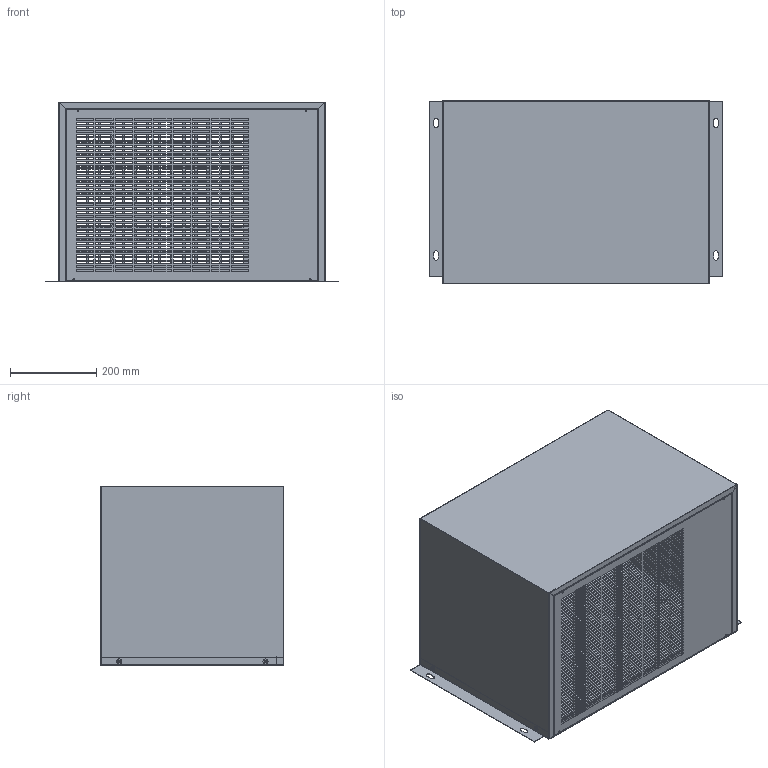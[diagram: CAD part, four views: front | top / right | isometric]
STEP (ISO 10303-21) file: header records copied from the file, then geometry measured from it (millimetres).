
FILE_DESCRIPTION(/* description */ ('Unknown','CAx-IF Rec.Pracs.---Representation and Presentation of Product Manufacturing Information (PMI)---4.0---2014-10-13','CAx-IF Rec.Pracs.---3D Tessellated Geometry---0.4---2014-09-14','2;1'),/* implementation_level */ '2;1');
FILE_NAME(/* name */ '28-272+500+17215_R01',/* time_stamp */ '2025-06-18T14:42:02+02:00',/* author */ ('Unknown'),/* organization */ ('Unknown'),/* preprocessor_version */ 'ST-DEVELOPER v20',/* originating_system */ 'Solid Edge',/* authorisation */ 'Unknown');
FILE_SCHEMA (('AP242_MANAGED_MODEL_BASED_3D_ENGINEERING_MIM_LF { 1 0 10303 442 1 1 4 }'));
Products named in the file (13): 28-272+500+17215_R01; 28-272_R01_oa_0; 30763+CONECTOR SELLADO ｼ M _oa_1; FD57-1114-04-06; 30764+CONECTOR SELLADO 5_16 M _oa_2; FD57-1114-05-06; 28-182+8116; 28-183+8152; 30987+Fijacion 5700-22-6S; 28-184+8154; 28-132+8160; 28-186+8158; 28-185+8156
Assembly tree (13 placements, depth 4):
  28-272+500+17215_R01
    28-272_R01_oa_0
      30763+CONECTOR SELLADO ｼ M _oa_1
        FD57-1114-04-06
      30764+CONECTOR SELLADO 5_16 M _oa_2
        FD57-1114-05-06
      28-182+8116
      28-183+8152
      30987+Fijacion 5700-22-6S  x2
    28-184+8154
    28-132+8160
    28-186+8158
    28-185+8156
Bounding box: 681 x 426.7 x 417.06 mm (x, y, z)
Volume: 1336132.1 mm3; surface area: 2980990.3 mm2
Topology: 10 solids, 10 shells, 2792 faces, 8148 edges, 5374 vertices
Faces by surface type: plane 2462, cylinder 271, bspline 36, torus 12, cone 11
Full cylindrical faces by diameter (mm): 2.7 x29, 4 x7, 4.2 x3, 4.25 x10, 5 x11, 5.08 x1, 5.23 x12, 6 x11, 6.001 x4, 6.452 x1, 7.137 x2, 8.026 x1, 9.525 x1, 10.211 x2, 10.846 x4, 11.125 x1, 12.01 x7, 12.09 x2, 13.843 x2, 15.735 x2, 18 x2, 20 x2, 23.1 x2, 30 x2, 46 x2
Entity records: 92175 total; most frequent: CARTESIAN_POINT 16718, ORIENTED_EDGE 15756, DIRECTION 13878, EDGE_CURVE 7878, LINE 7334, VECTOR 7334, VERTEX_POINT 5256, EDGE_LOOP 4180
